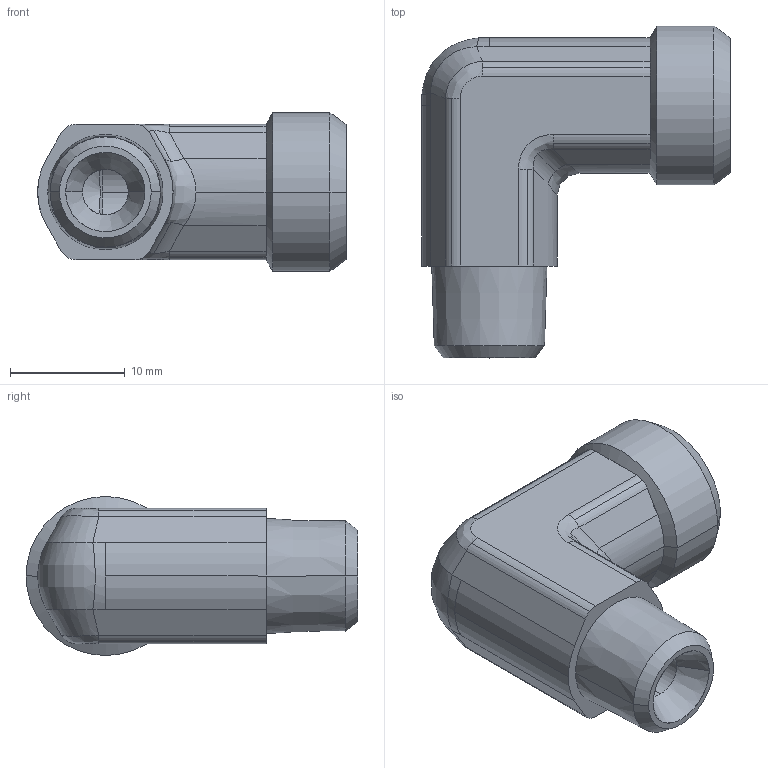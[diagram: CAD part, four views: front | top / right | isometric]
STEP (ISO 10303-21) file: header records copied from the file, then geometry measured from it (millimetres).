
FILE_DESCRIPTION((''),'2;1');
FILE_NAME('102025.stp','2007-10-30T16:36:41',(''),(''),'AutoCAD STEP 2000i','AutoCAD 2000i',', , ');
FILE_SCHEMA(('CONFIG_CONTROL_DESIGN'));
Length unit declared in the file: millimetre
Products named in the file (2): 102025.0; 3090#0
Assembly tree (1 placements, depth 2):
  102025.0
    3090#0
Bounding box: 26.9 x 28.93 x 13.85 mm (x, y, z)
Volume: 3700.4 mm3; surface area: 2506.7 mm2
Topology: 1 solids, 1 shells, 87 faces, 210 edges, 127 vertices
Faces by surface type: cylinder 36, plane 22, cone 15, bspline 14
Entity records: 3436 total; most frequent: CARTESIAN_POINT 1296, DIRECTION 447, ORIENTED_EDGE 420, EDGE_CURVE 210, AXIS2_PLACEMENT_3D 182, VERTEX_POINT 127, CIRCLE 97, EDGE_LOOP 91
